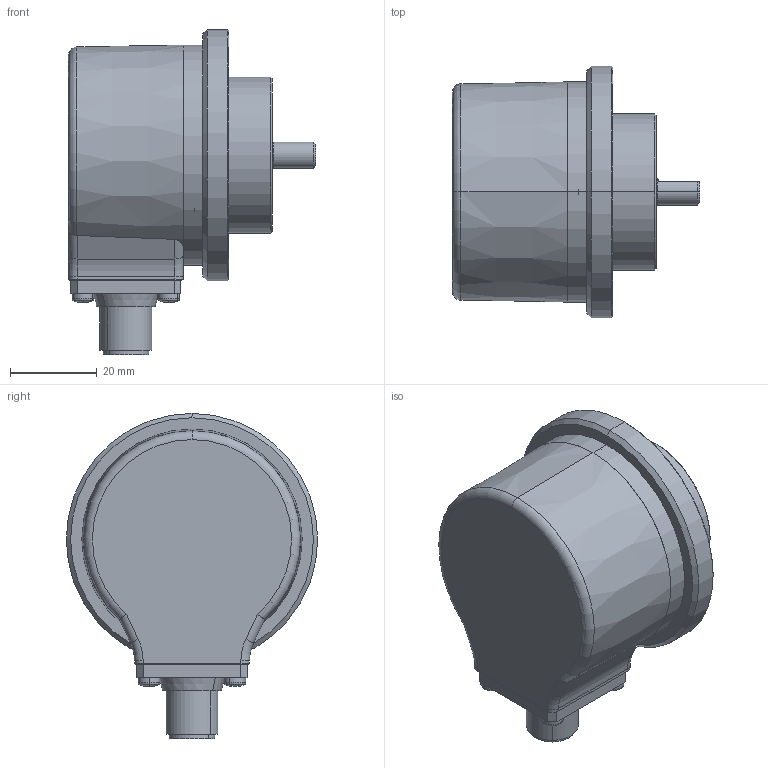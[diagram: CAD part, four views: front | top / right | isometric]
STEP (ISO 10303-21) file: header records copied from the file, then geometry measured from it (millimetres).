
FILE_DESCRIPTION (( 'STEP AP214' ), '1' );
FILE_NAME ('5000.81X4.XXXX.STEP', '2008-12-03T07:21:20', ( 'admin' ), ( 'Fritz Kübler GmbH' ), 'SwSTEP 2.0', 'SolidWorks 2008', '' );
FILE_SCHEMA (( 'AUTOMOTIVE_DESIGN' ));
Length unit declared in the file: millimetre
Products named in the file (1): 5000.81X4.XXXX
Bounding box: 57 x 58 x 75 mm (x, y, z)
Volume: 50463.6 mm3; surface area: 33291.5 mm2
Topology: 9 solids, 10 shells, 506 faces, 1225 edges, 740 vertices
Faces by surface type: cylinder 154, plane 150, cone 85, torus 59, sphere 48, bspline 10
Entity records: 20779 total; most frequent: CARTESIAN_POINT 3552, DIRECTION 2619, ORIENTED_EDGE 2254, EDGE_CURVE 1127, AXIS2_PLACEMENT_3D 1091, VERTEX_POINT 694, EDGE_LOOP 595, CIRCLE 594
